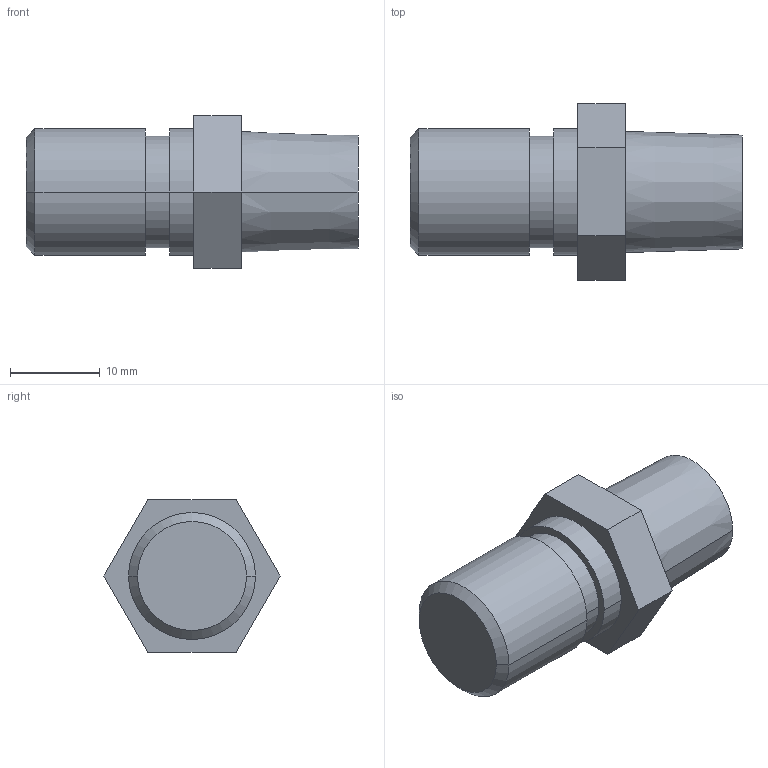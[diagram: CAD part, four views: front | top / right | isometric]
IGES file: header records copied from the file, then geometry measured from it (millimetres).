
Global section: file name: No Iges File Name specified; native system: Autodesk Inventor 2009; preprocessor: AutoDesk Inventor Iges Exporter R2009; author: y-shimohigashi; date: 20080702.105537; units: millimetre
Bounding box: 37 x 19.63 x 17 mm (x, y, z)
Volume: 5898.5 mm3; surface area: 2193.1 mm2
Topology: 1 solids, 1 shells, 22 faces, 46 edges, 30 vertices
Faces by surface type: plane 12, cylinder 6, cone 4
